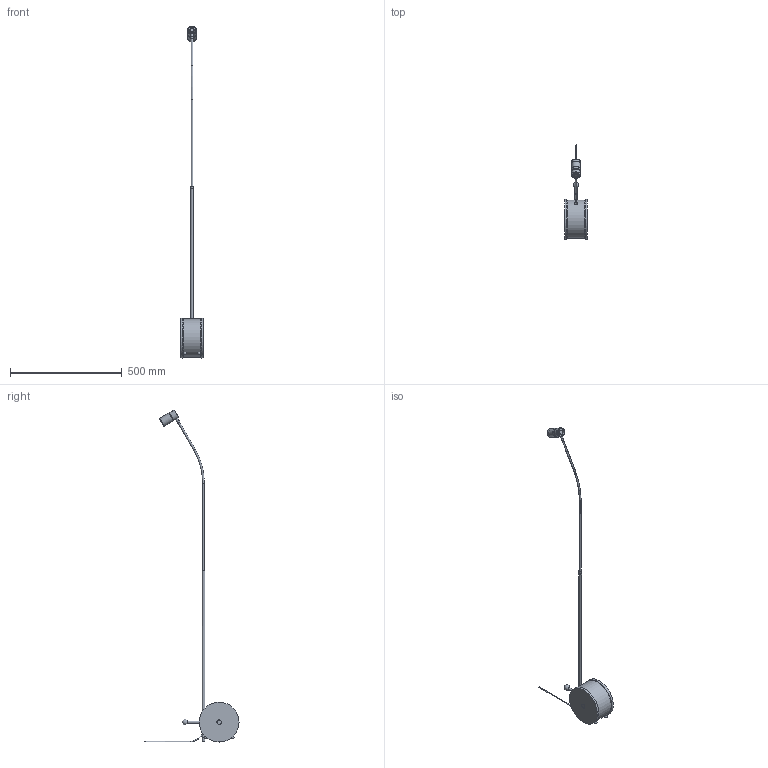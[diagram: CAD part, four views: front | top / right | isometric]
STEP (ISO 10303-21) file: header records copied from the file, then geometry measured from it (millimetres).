
FILE_DESCRIPTION(/* description */ (''),/* implementation_level */ '2;1');
FILE_NAME(/* name */ 'ASM Chiocciola Reading.step',/* time_stamp */ '2023-03-02T17:55:02+01:00',/* author */ (''),/* organization */ (''),/* preprocessor_version */ 'ST-DEVELOPER v19.2',/* originating_system */ 'Autodesk Translation Framework v11.17.0.187',/* authorisation */ '');
FILE_SCHEMA (('AUTOMOTIVE_DESIGN { 1 0 10303 214 3 1 1 }'));
Length unit declared in the file: millimetre
Products named in the file (21): ASM Chiocciola Reading; Chiocciola Ruota in Legno Reading; Chiocciola Sfera Reading-Table; Chiocciola Flangia U Reading; Chioccila Flangia Interna Reading; Chiocciola Piede Reading-Table; Chiocciola Perno Sfera Reading-Table; Chiocciola Dado Cilindrico Reading-Table; Chiocciola Sferetta Finecorsa Reading-Table; Chiocciola Ruota Reading-Table; Chiocciola Reading-Table Tubo_02; Chiocciola Reading Tubo_01; Rayconn - ALT40 - Braccio 20; SPOT; ARM; LED PCB v12; LAMIERA LED SUPERIORE v12; LED GROUP; LED (1); ANTIGLARE; Cavo
Assembly tree (25 placements, depth 5):
  ASM Chiocciola Reading
    Chiocciola Ruota in Legno Reading
    Chiocciola Dado Cilindrico Reading-Table  x2
    Chiocciola Sfera Reading-Table
    Chiocciola Sferetta Finecorsa Reading-Table  x4
    Chiocciola Flangia U Reading
    Chioccila Flangia Interna Reading
    Chiocciola Piede Reading-Table
    Chiocciola Perno Sfera Reading-Table
    Chiocciola Ruota Reading-Table  x2
    Chiocciola Reading-Table Tubo_02
    Chiocciola Reading Tubo_01
    Rayconn - ALT40 - Braccio 20
      SPOT
      ARM
      LED PCB v12
        LAMIERA LED SUPERIORE v12
        LED GROUP
          LED (1)
      ANTIGLARE
    Cavo
Bounding box: 101 x 421.53 x 1488.17 mm (x, y, z)
Volume: 2203235.6 mm3; surface area: 343624.2 mm2
Topology: 23 solids, 23 shells, 542 faces, 1146 edges, 671 vertices
Faces by surface type: cylinder 201, plane 164, torus 102, sphere 53, cone 17, bspline 5
Full cylindrical faces by diameter (mm): 3.5 x7, 4.901 x4, 5 x2, 6 x2, 7 x1, 7.035 x1, 7.5 x1, 7.884 x2, 8 x2, 9 x1, 9.036 x2, 9.884 x4, 9.904 x1, 10 x3, 11 x2, 12 x2, 13 x1, 18 x1, 19.5 x2, 20 x2, 20.5 x1, 34 x2, 36 x2, 40 x2, 65 x1, 178 x2
Entity records: 15233 total; most frequent: CARTESIAN_POINT 2857, DIRECTION 2815, ORIENTED_EDGE 2204, AXIS2_PLACEMENT_3D 1175, EDGE_CURVE 1102, VERTEX_POINT 648, CIRCLE 609, EDGE_LOOP 574
